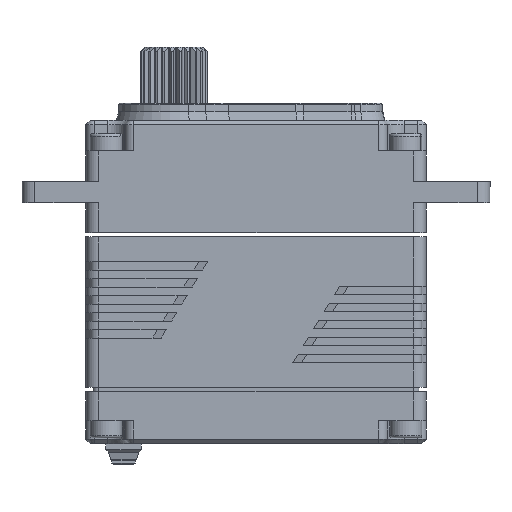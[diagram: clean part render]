
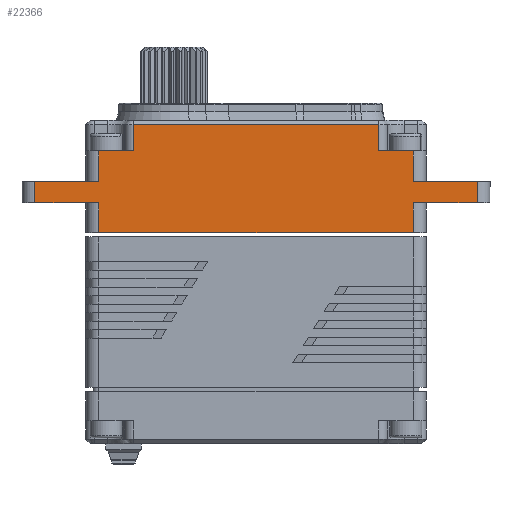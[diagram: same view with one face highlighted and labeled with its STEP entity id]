
A CAD part, front view. The second image highlights one B-rep face of the part: STEP entity #22366.
In plain terms, the highlighted planar face has unit normal (0, -1, 0).
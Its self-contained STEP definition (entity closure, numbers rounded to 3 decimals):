
#430 = EDGE_CURVE ( 'NONE', #10910, #2730, #26071, .T. ) ;
#448 = DIRECTION ( 'NONE',  ( 0., 0., -1. ) ) ;
#583 = DIRECTION ( 'NONE',  ( 1., 0., 0. ) ) ;
#691 = ORIENTED_EDGE ( 'NONE', *, *, #17921, .T. ) ;
#713 = CARTESIAN_POINT ( 'NONE',  ( -15.791, -9.474, 13.35 ) ) ;
#741 = CARTESIAN_POINT ( 'NONE',  ( -5.241, -9.474, 16.95 ) ) ;
#797 = CARTESIAN_POINT ( 'NONE',  ( -15.341, -9.474, 16.95 ) ) ;
#1078 = CARTESIAN_POINT ( 'NONE',  ( -5.241, -9.474, 20.05 ) ) ;
#1257 = DIRECTION ( 'NONE',  ( 0., 0., 1. ) ) ;
#1541 = DIRECTION ( 'NONE',  ( -1., 0., 0. ) ) ;
#1815 = CARTESIAN_POINT ( 'NONE',  ( -59.841, -9.474, 13.35 ) ) ;
#2607 = LINE ( 'NONE', #713, #22466 ) ;
#2730 = VERTEX_POINT ( 'NONE', #25534 ) ;
#2801 = DIRECTION ( 'NONE',  ( -1., 0., 0. ) ) ;
#2816 = EDGE_CURVE ( 'NONE', #25093, #22020, #25570, .T. ) ;
#3536 = DIRECTION ( 'NONE',  ( 0., 0., 1. ) ) ;
#3749 = ORIENTED_EDGE ( 'NONE', *, *, #25566, .F. ) ;
#3929 = CARTESIAN_POINT ( 'NONE',  ( -15.341, -9.474, 10.85 ) ) ;
#4308 = CARTESIAN_POINT ( 'NONE',  ( -19.441, -9.474, 20.05 ) ) ;
#4354 = ORIENTED_EDGE ( 'NONE', *, *, #14655, .T. ) ;
#4385 = VECTOR ( 'NONE', #8798, 1000. ) ;
#4589 = ORIENTED_EDGE ( 'NONE', *, *, #2816, .T. ) ;
#4724 = EDGE_CURVE ( 'NONE', #2730, #8769, #6299, .T. ) ;
#4779 = VECTOR ( 'NONE', #5321, 1000. ) ;
#4871 = ORIENTED_EDGE ( 'NONE', *, *, #11724, .T. ) ;
#5016 = VERTEX_POINT ( 'NONE', #27835 ) ;
#5321 = DIRECTION ( 'NONE',  ( 0., 0., 1. ) ) ;
#5762 = VECTOR ( 'NONE', #3536, 1000. ) ;
#5954 = LINE ( 'NONE', #9137, #4779 ) ;
#6201 = DIRECTION ( 'NONE',  ( -1., 0., 0. ) ) ;
#6299 = LINE ( 'NONE', #31487, #17159 ) ;
#6379 = CARTESIAN_POINT ( 'NONE',  ( -5.241, -9.474, 7.765 ) ) ;
#6840 = EDGE_CURVE ( 'NONE', #24766, #25093, #5954, .T. ) ;
#7147 = EDGE_CURVE ( 'NONE', #21776, #5016, #20723, .T. ) ;
#7558 = LINE ( 'NONE', #18892, #10706 ) ;
#7576 = ORIENTED_EDGE ( 'NONE', *, *, #6840, .T. ) ;
#7709 = ORIENTED_EDGE ( 'NONE', *, *, #4724, .T. ) ;
#8376 = VERTEX_POINT ( 'NONE', #27143 ) ;
#8543 = CARTESIAN_POINT ( 'NONE',  ( -19.441, -9.474, 7.765 ) ) ;
#8769 = VERTEX_POINT ( 'NONE', #26376 ) ;
#8798 = DIRECTION ( 'NONE',  ( -1., 0., 0. ) ) ;
#9137 = CARTESIAN_POINT ( 'NONE',  ( -15.341, -9.474, 7.765 ) ) ;
#9923 = LINE ( 'NONE', #12908, #24331 ) ;
#10039 = DIRECTION ( 'NONE',  ( 0., 0., -1. ) ) ;
#10706 = VECTOR ( 'NONE', #16381, 1000. ) ;
#10759 = DIRECTION ( 'NONE',  ( 0., 0., -1. ) ) ;
#10832 = LINE ( 'NONE', #23153, #13132 ) ;
#10910 = VERTEX_POINT ( 'NONE', #17210 ) ;
#11724 = EDGE_CURVE ( 'NONE', #17076, #8376, #9923, .T. ) ;
#12629 = ORIENTED_EDGE ( 'NONE', *, *, #21040, .F. ) ;
#12908 = CARTESIAN_POINT ( 'NONE',  ( -15.341, -9.474, 7.35 ) ) ;
#13132 = VECTOR ( 'NONE', #30897, 1000. ) ;
#13487 = VECTOR ( 'NONE', #448, 1000. ) ;
#13812 = CARTESIAN_POINT ( 'NONE',  ( -52.341, -9.474, 7.765 ) ) ;
#13831 = ORIENTED_EDGE ( 'NONE', *, *, #430, .T. ) ;
#13962 = LINE ( 'NONE', #13812, #29558 ) ;
#14112 = EDGE_CURVE ( 'NONE', #21776, #17076, #26091, .T. ) ;
#14442 = EDGE_CURVE ( 'NONE', #8769, #29382, #13962, .T. ) ;
#14655 = EDGE_CURVE ( 'NONE', #8376, #18587, #31079, .T. ) ;
#14665 = CARTESIAN_POINT ( 'NONE',  ( -15.341, -9.474, 7.765 ) ) ;
#14948 = VERTEX_POINT ( 'NONE', #18795 ) ;
#16381 = DIRECTION ( 'NONE',  ( 0., 0., -1. ) ) ;
#16648 = ORIENTED_EDGE ( 'NONE', *, *, #31715, .T. ) ;
#17076 = VERTEX_POINT ( 'NONE', #19651 ) ;
#17159 = VECTOR ( 'NONE', #1541, 1000. ) ;
#17210 = CARTESIAN_POINT ( 'NONE',  ( -48.241, -9.474, 20.05 ) ) ;
#17411 = LINE ( 'NONE', #30557, #24817 ) ;
#17739 = FACE_OUTER_BOUND ( 'NONE', #19602, .T. ) ;
#17921 = EDGE_CURVE ( 'NONE', #22020, #32292, #25185, .T. ) ;
#17928 = EDGE_CURVE ( 'NONE', #24766, #14948, #2607, .T. ) ;
#18095 = ORIENTED_EDGE ( 'NONE', *, *, #17928, .F. ) ;
#18294 = ORIENTED_EDGE ( 'NONE', *, *, #14442, .T. ) ;
#18572 = ORIENTED_EDGE ( 'NONE', *, *, #14112, .T. ) ;
#18587 = VERTEX_POINT ( 'NONE', #3929 ) ;
#18795 = CARTESIAN_POINT ( 'NONE',  ( -7.841, -9.474, 13.35 ) ) ;
#18892 = CARTESIAN_POINT ( 'NONE',  ( -59.841, -9.474, 7.765 ) ) ;
#19228 = LINE ( 'NONE', #1078, #27407 ) ;
#19469 = DIRECTION ( 'NONE',  ( 0., 0., 1. ) ) ;
#19602 = EDGE_LOOP ( 'NONE', ( #691, #16648, #13831, #7709, #18294, #23344, #29188, #31847, #18572, #4871, #4354, #3749, #12629, #18095, #7576, #4589 ) ) ;
#19651 = CARTESIAN_POINT ( 'NONE',  ( -52.341, -9.474, 7.35 ) ) ;
#19850 = VECTOR ( 'NONE', #10039, 1000. ) ;
#20102 = LINE ( 'NONE', #22421, #13487 ) ;
#20428 = DIRECTION ( 'NONE',  ( 1., 0., 0. ) ) ;
#20723 = LINE ( 'NONE', #21199, #4385 ) ;
#20749 = CARTESIAN_POINT ( 'NONE',  ( -48.241, -9.474, 7.765 ) ) ;
#20847 = DIRECTION ( 'NONE',  ( 1., 0., 0. ) ) ;
#20877 = VECTOR ( 'NONE', #2801, 1000. ) ;
#21010 = VECTOR ( 'NONE', #10759, 1000. ) ;
#21040 = EDGE_CURVE ( 'NONE', #14948, #24941, #20102, .T. ) ;
#21199 = CARTESIAN_POINT ( 'NONE',  ( -51.891, -9.474, 10.85 ) ) ;
#21262 = PLANE ( 'NONE',  #28014 ) ;
#21776 = VERTEX_POINT ( 'NONE', #28482 ) ;
#22020 = VERTEX_POINT ( 'NONE', #24226 ) ;
#22366 = ADVANCED_FACE ( 'NONE', ( #17739 ), #21262, .T. ) ;
#22421 = CARTESIAN_POINT ( 'NONE',  ( -7.841, -9.474, 21.05 ) ) ;
#22466 = VECTOR ( 'NONE', #583, 1000. ) ;
#23153 = CARTESIAN_POINT ( 'NONE',  ( -5.891, -9.474, 10.85 ) ) ;
#23344 = ORIENTED_EDGE ( 'NONE', *, *, #25599, .F. ) ;
#23984 = DIRECTION ( 'NONE',  ( 0., -1., 0. ) ) ;
#24226 = CARTESIAN_POINT ( 'NONE',  ( -19.441, -9.474, 16.95 ) ) ;
#24331 = VECTOR ( 'NONE', #20428, 1000. ) ;
#24766 = VERTEX_POINT ( 'NONE', #31618 ) ;
#24817 = VECTOR ( 'NONE', #20847, 1000. ) ;
#24935 = CARTESIAN_POINT ( 'NONE',  ( -7.841, -9.474, 10.85 ) ) ;
#24941 = VERTEX_POINT ( 'NONE', #24935 ) ;
#25093 = VERTEX_POINT ( 'NONE', #797 ) ;
#25185 = LINE ( 'NONE', #8543, #5762 ) ;
#25534 = CARTESIAN_POINT ( 'NONE',  ( -48.241, -9.474, 16.95 ) ) ;
#25566 = EDGE_CURVE ( 'NONE', #24941, #18587, #10832, .T. ) ;
#25570 = LINE ( 'NONE', #741, #20877 ) ;
#25599 = EDGE_CURVE ( 'NONE', #25823, #29382, #17411, .T. ) ;
#25625 = CARTESIAN_POINT ( 'NONE',  ( -52.341, -9.474, 13.35 ) ) ;
#25823 = VERTEX_POINT ( 'NONE', #1815 ) ;
#26071 = LINE ( 'NONE', #20749, #21010 ) ;
#26091 = LINE ( 'NONE', #27112, #19850 ) ;
#26355 = DIRECTION ( 'NONE',  ( 0., 0., -1. ) ) ;
#26376 = CARTESIAN_POINT ( 'NONE',  ( -52.341, -9.474, 16.95 ) ) ;
#27112 = CARTESIAN_POINT ( 'NONE',  ( -52.341, -9.474, 7.765 ) ) ;
#27143 = CARTESIAN_POINT ( 'NONE',  ( -15.341, -9.474, 7.35 ) ) ;
#27407 = VECTOR ( 'NONE', #6201, 1000. ) ;
#27835 = CARTESIAN_POINT ( 'NONE',  ( -59.841, -9.474, 10.85 ) ) ;
#28014 = AXIS2_PLACEMENT_3D ( 'NONE', #6379, #23984, #1257 ) ;
#28335 = VECTOR ( 'NONE', #19469, 1000. ) ;
#28482 = CARTESIAN_POINT ( 'NONE',  ( -52.341, -9.474, 10.85 ) ) ;
#29188 = ORIENTED_EDGE ( 'NONE', *, *, #31817, .T. ) ;
#29382 = VERTEX_POINT ( 'NONE', #25625 ) ;
#29558 = VECTOR ( 'NONE', #26355, 1000. ) ;
#30557 = CARTESIAN_POINT ( 'NONE',  ( -61.791, -9.474, 13.35 ) ) ;
#30897 = DIRECTION ( 'NONE',  ( -1., 0., 0. ) ) ;
#31079 = LINE ( 'NONE', #14665, #28335 ) ;
#31487 = CARTESIAN_POINT ( 'NONE',  ( -5.241, -9.474, 16.95 ) ) ;
#31618 = CARTESIAN_POINT ( 'NONE',  ( -15.341, -9.474, 13.35 ) ) ;
#31715 = EDGE_CURVE ( 'NONE', #32292, #10910, #19228, .T. ) ;
#31817 = EDGE_CURVE ( 'NONE', #25823, #5016, #7558, .T. ) ;
#31847 = ORIENTED_EDGE ( 'NONE', *, *, #7147, .F. ) ;
#32292 = VERTEX_POINT ( 'NONE', #4308 ) ;
